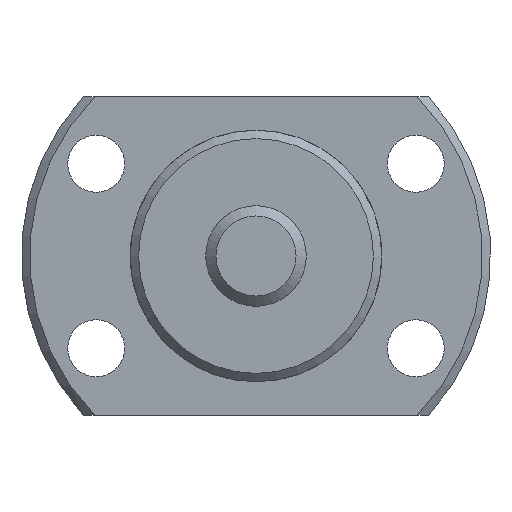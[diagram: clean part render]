
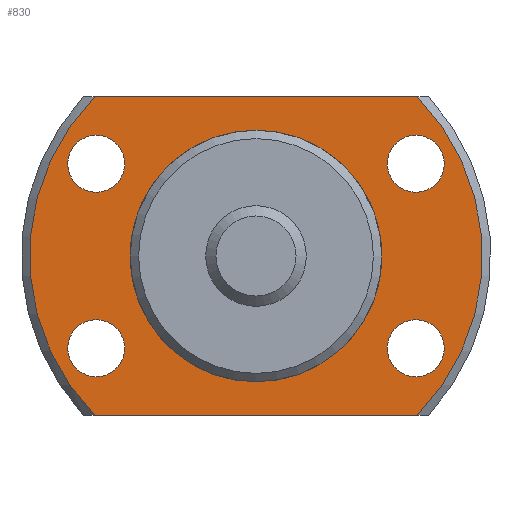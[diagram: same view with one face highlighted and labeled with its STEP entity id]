
A CAD part, left-side view. The second image highlights one B-rep face of the part: STEP entity #830.
In plain terms, the highlighted planar face has unit normal (-1, 0, 0).
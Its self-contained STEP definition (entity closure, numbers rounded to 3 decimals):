
#44=LINE('',#1459,#80);
#45=LINE('',#1463,#81);
#80=VECTOR('',#1138,1000.);
#81=VECTOR('',#1141,1000.);
#236=ORIENTED_EDGE('',*,*,#435,.T.);
#237=ORIENTED_EDGE('',*,*,#436,.T.);
#238=ORIENTED_EDGE('',*,*,#437,.T.);
#239=ORIENTED_EDGE('',*,*,#438,.T.);
#240=ORIENTED_EDGE('',*,*,#424,.F.);
#241=ORIENTED_EDGE('',*,*,#439,.F.);
#242=ORIENTED_EDGE('',*,*,#440,.F.);
#243=ORIENTED_EDGE('',*,*,#441,.F.);
#244=ORIENTED_EDGE('',*,*,#419,.T.);
#419=EDGE_CURVE('',#520,#520,#577,.T.);
#424=EDGE_CURVE('',#523,#524,#579,.T.);
#435=EDGE_CURVE('',#533,#533,#585,.T.);
#436=EDGE_CURVE('',#534,#534,#586,.T.);
#437=EDGE_CURVE('',#535,#535,#587,.T.);
#438=EDGE_CURVE('',#536,#536,#588,.T.);
#439=EDGE_CURVE('',#537,#523,#44,.T.);
#440=EDGE_CURVE('',#538,#537,#589,.T.);
#441=EDGE_CURVE('',#524,#538,#45,.T.);
#520=VERTEX_POINT('',#1405);
#523=VERTEX_POINT('',#1416);
#524=VERTEX_POINT('',#1418);
#533=VERTEX_POINT('',#1452);
#534=VERTEX_POINT('',#1454);
#535=VERTEX_POINT('',#1456);
#536=VERTEX_POINT('',#1458);
#537=VERTEX_POINT('',#1460);
#538=VERTEX_POINT('',#1462);
#577=CIRCLE('',#927,7.25);
#579=CIRCLE('',#930,13.5);
#585=CIRCLE('',#941,1.7);
#586=CIRCLE('',#942,1.7);
#587=CIRCLE('',#943,1.7);
#588=CIRCLE('',#944,1.7);
#589=CIRCLE('',#945,13.5);
#643=EDGE_LOOP('',(#236));
#644=EDGE_LOOP('',(#237));
#645=EDGE_LOOP('',(#238));
#646=EDGE_LOOP('',(#239));
#647=EDGE_LOOP('',(#240,#241,#242,#243));
#648=EDGE_LOOP('',(#244));
#729=FACE_BOUND('',#643,.T.);
#730=FACE_BOUND('',#644,.T.);
#731=FACE_BOUND('',#645,.T.);
#732=FACE_BOUND('',#646,.T.);
#733=FACE_BOUND('',#647,.T.);
#734=FACE_BOUND('',#648,.T.);
#790=PLANE('',#940);
#830=ADVANCED_FACE('',(#729,#730,#731,#732,#733,#734),#790,.F.);
#927=AXIS2_PLACEMENT_3D('',#1404,#1098,#1099);
#930=AXIS2_PLACEMENT_3D('',#1417,#1106,#1107);
#940=AXIS2_PLACEMENT_3D('',#1450,#1128,#1129);
#941=AXIS2_PLACEMENT_3D('',#1451,#1130,#1131);
#942=AXIS2_PLACEMENT_3D('',#1453,#1132,#1133);
#943=AXIS2_PLACEMENT_3D('',#1455,#1134,#1135);
#944=AXIS2_PLACEMENT_3D('',#1457,#1136,#1137);
#945=AXIS2_PLACEMENT_3D('',#1461,#1139,#1140);
#1098=DIRECTION('',(1.,0.,0.));
#1099=DIRECTION('',(0.,0.,-1.));
#1106=DIRECTION('',(1.,0.,0.));
#1107=DIRECTION('',(0.,0.,-1.));
#1128=DIRECTION('',(1.,0.,0.));
#1129=DIRECTION('',(0.,0.,-1.));
#1130=DIRECTION('',(1.,0.,0.));
#1131=DIRECTION('',(0.,0.,-1.));
#1132=DIRECTION('',(1.,0.,0.));
#1133=DIRECTION('',(0.,0.,-1.));
#1134=DIRECTION('',(1.,0.,0.));
#1135=DIRECTION('',(0.,0.,-1.));
#1136=DIRECTION('',(1.,0.,0.));
#1137=DIRECTION('',(0.,0.,-1.));
#1138=DIRECTION('',(0.,1.,0.));
#1139=DIRECTION('',(1.,0.,0.));
#1140=DIRECTION('',(0.,0.,-1.));
#1141=DIRECTION('',(0.,-1.,0.));
#1404=CARTESIAN_POINT('',(13.,0.,0.));
#1405=CARTESIAN_POINT('',(13.,0.,-7.25));
#1416=CARTESIAN_POINT('',(13.,9.592,-9.5));
#1417=CARTESIAN_POINT('',(13.,0.,0.));
#1418=CARTESIAN_POINT('',(13.,9.592,9.5));
#1450=CARTESIAN_POINT('',(13.,7.25,0.));
#1451=CARTESIAN_POINT('',(13.,-9.526,-5.5));
#1452=CARTESIAN_POINT('',(13.,-9.526,-7.2));
#1453=CARTESIAN_POINT('',(13.,-9.526,5.5));
#1454=CARTESIAN_POINT('',(13.,-9.526,3.8));
#1455=CARTESIAN_POINT('',(13.,9.526,-5.5));
#1456=CARTESIAN_POINT('',(13.,9.526,-7.2));
#1457=CARTESIAN_POINT('',(13.,9.526,5.5));
#1458=CARTESIAN_POINT('',(13.,9.526,3.8));
#1459=CARTESIAN_POINT('',(13.,-19.,-9.5));
#1460=CARTESIAN_POINT('',(13.,-9.592,-9.5));
#1461=CARTESIAN_POINT('',(13.,0.,0.));
#1462=CARTESIAN_POINT('',(13.,-9.592,9.5));
#1463=CARTESIAN_POINT('',(13.,19.,9.5));
